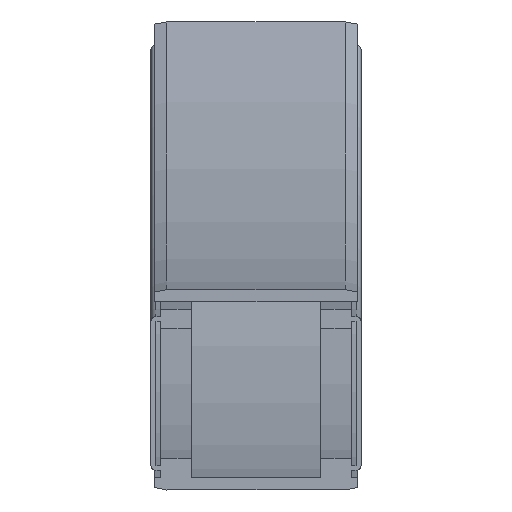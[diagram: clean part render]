
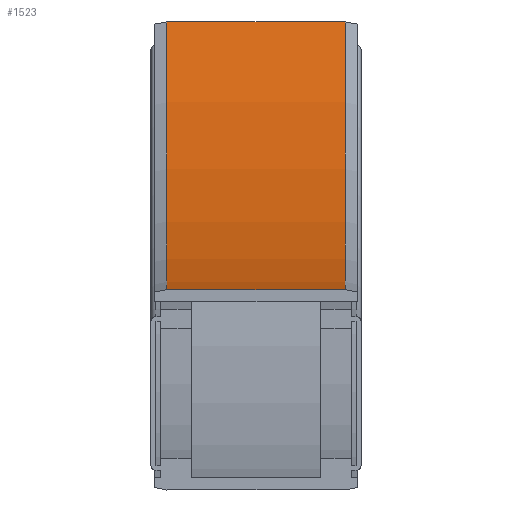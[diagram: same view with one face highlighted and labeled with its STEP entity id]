
A CAD part, front view. The second image highlights one B-rep face of the part: STEP entity #1523.
In plain terms, the highlighted cylindrical face has radius 817.5 mm (diameter 1635 mm), a partial arc.
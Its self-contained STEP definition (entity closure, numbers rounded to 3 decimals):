
#79=CYLINDRICAL_SURFACE('',#1637,817.5);
#110=FACE_OUTER_BOUND('',#197,.T.);
#197=EDGE_LOOP('',(#1004,#1005,#1006,#1007));
#289=CIRCLE('',#1636,817.5);
#290=CIRCLE('',#1638,817.5);
#358=LINE('',#2198,#484);
#359=LINE('',#2200,#485);
#484=VECTOR('',#1790,10.);
#485=VECTOR('',#1791,10.);
#610=VERTEX_POINT('',#2191);
#611=VERTEX_POINT('',#2193);
#612=VERTEX_POINT('',#2197);
#613=VERTEX_POINT('',#2199);
#768=EDGE_CURVE('',#610,#611,#289,.T.);
#769=EDGE_CURVE('',#612,#610,#358,.T.);
#770=EDGE_CURVE('',#613,#611,#359,.T.);
#771=EDGE_CURVE('',#612,#613,#290,.T.);
#1004=ORIENTED_EDGE('',*,*,#769,.T.);
#1005=ORIENTED_EDGE('',*,*,#768,.T.);
#1006=ORIENTED_EDGE('',*,*,#770,.F.);
#1007=ORIENTED_EDGE('',*,*,#771,.F.);
#1523=ADVANCED_FACE('',(#110),#79,.F.);
#1636=AXIS2_PLACEMENT_3D('',#2195,#1786,#1787);
#1637=AXIS2_PLACEMENT_3D('',#2196,#1788,#1789);
#1638=AXIS2_PLACEMENT_3D('',#2201,#1792,#1793);
#1786=DIRECTION('center_axis',(1.,0.,0.));
#1787=DIRECTION('ref_axis',(0.,0.,-1.));
#1788=DIRECTION('center_axis',(1.,0.,0.));
#1789=DIRECTION('ref_axis',(0.,0.,-1.));
#1790=DIRECTION('',(1.,0.,0.));
#1791=DIRECTION('',(1.,0.,0.));
#1792=DIRECTION('center_axis',(1.,0.,0.));
#1793=DIRECTION('ref_axis',(0.,0.,-1.));
#2191=CARTESIAN_POINT('',(36.5,0.,42.5));
#2193=CARTESIAN_POINT('',(36.5,408.75,152.024));
#2195=CARTESIAN_POINT('Origin',(36.5,0.,860.));
#2196=CARTESIAN_POINT('Origin',(0.,0.,860.));
#2197=CARTESIAN_POINT('',(-36.5,0.,42.5));
#2198=CARTESIAN_POINT('',(-36.5,0.,42.5));
#2199=CARTESIAN_POINT('',(-36.5,408.75,152.024));
#2200=CARTESIAN_POINT('',(-36.5,408.75,152.024));
#2201=CARTESIAN_POINT('Origin',(-36.5,0.,860.));
